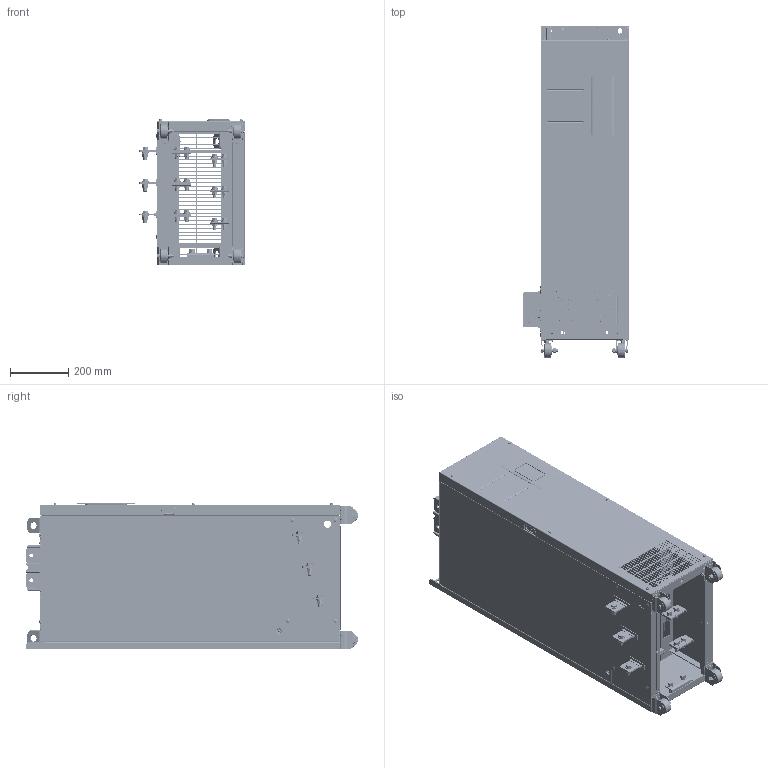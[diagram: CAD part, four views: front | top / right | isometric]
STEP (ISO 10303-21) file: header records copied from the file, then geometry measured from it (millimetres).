
FILE_DESCRIPTION((''),'2;1');
FILE_NAME('000-MVT224ZG-520_ASM','2021-12-14T',('h2718'),(''),'CREO PARAMETRIC BY PTC INC, 2015290','CREO PARAMETRIC BY PTC INC, 2015290','');
FILE_SCHEMA(('AP203_CONFIGURATION_CONTROLLED_3D_DESIGN_OF_MECHANICAL_PARTS_AND_ASSEMBLIES_MIM_LF { 1 0 10303 403 2 1 2 }'));
Products named in the file (56): 20310568-LJ_3; HC-NZ-M12-ZC_1; 20310563-LJ_AF0_2; 20310549-LJ_AF1_5_1; 20310549-LJ_AF1_5_2; 20310555-LJ_AF1_4; 20310556-LJ_AF1_7; 20310552-LJ_AF1_3_1; 20310552-LJ_AF1_3_2; 20110091-ZP_ASM_11_ASM; 20310565-LJ_3; 20310564-LJ_3; 20130143-ZP_ASM_3_ASM; HC-TPR-5-10-SL_1; SIT2013AGH5; 20460155-LJ_3; 20460154-LJ_4; 20460157-LJ_1; 20190039-ZP_ASM_8_ASM; 20350028-LJ_AF1_3; 20350027-LJ_AF1_3; 20350023-ZP_ASM_3_ASM; 20350174-LJ_4; 20310720-LJ_1; 20310720-LJ_ASM_1_ASM; 20350173-LJ_1; HC-S-M4-ZC_1; 20350173-LJ_ASM_1_ASM; 20180084-LJ_1; 21030044_2; 20210022-LJ_1; 20210102-LJ_1; 20210041-LJ_1; 19020408-LJ_1; 20230121-LJ_5; 21010127_1; 21020123_1; QITA-T10_ASM; 520-KZB-20211209; 520-AJZJ-02-20211209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
Assembly tree (172 placements, depth 4):
  000-MVT224ZG-520_ASM
    20190039-ZP_ASM_8_ASM
      20110091-ZP_ASM_11_ASM
        20310568-LJ_3
        HC-NZ-M12-ZC_1  x2
        20310563-LJ_AF0_2
        20310549-LJ_AF1_5_1
        20310549-LJ_AF1_5_2
        20310555-LJ_AF1_4
        20310556-LJ_AF1_7
        20310552-LJ_AF1_3_1
        20310552-LJ_AF1_3_2
      20130143-ZP_ASM_3_ASM  x2
        20310565-LJ_3
        20310564-LJ_3
      HC-TPR-5-10-SL_1
      SIT2013AGH5
      20460155-LJ_3
      20460154-LJ_4
      20460157-LJ_1
    20350023-ZP_ASM_3_ASM
      20350028-LJ_AF1_3
      20350027-LJ_AF1_3
    QITA-T10_ASM
      20350174-LJ_4  x6
      20310720-LJ_ASM_1_ASM  x6
        20310720-LJ_1
        HC-NZ-M12-ZC_1
      20350173-LJ_ASM_1_ASM  x3
        20350173-LJ_1
        HC-S-M4-ZC_1
      20180084-LJ_1  x4
      21030044_2  x2
      20210022-LJ_1  x3
      20210102-LJ_1
      20210041-LJ_1  x2
      19020408-LJ_1
      20230121-LJ_5
      21010127_1  x4
      21020123_1  x4
    001-520-ZUJIAN_ASM
      520-KZB-20211209
      520-AJZJ-02-20211209
      20212503_S
      20441163
    LUODING-T10_ASM
      GB9074_13-88_M8X20_GB_2  x8
      GB9074_8-88_M4X10_GB_2  x12
      GB9074_13-88_M5X12_GBXNHJ_2  x6
      GB97_1-2002_12_GB_A_2  x20
      GB93-87_12_GB_2  x17
      GB6170-2000_M12_GB1_A_8_1  x3
      GB5783-2000_M12X35_GB8_8_1  x17
      GB5783-2000_M8X50_GB8_8_2  x4
      GB97_1-2002_8_GB_A_2  x4
      GB93-87_8_GB_2  x4
      GB6170-2000_M8_GB1_A_8_2  x4
Bounding box: 360.53 x 1135 x 502.28 mm (x, y, z)
Volume: 5202081.1 mm3; surface area: 5741609.2 mm2
Topology: 205 solids, 223 shells, 15098 faces, 40601 edges, 26154 vertices
Faces by surface type: plane 9139, cylinder 3790, cone 1201, bspline 507, torus 324, extrusion 70, sphere 57, revolution 10
Entity records: 495162 total; most frequent: CARTESIAN_POINT 102372, ORIENTED_EDGE 58920, DIRECTION 56641, PRESENTATION_STYLE_ASSIGNMENT 32410, STYLED_ITEM 29911, CURVE_STYLE 29832, EDGE_CURVE 29489, VECTOR 20855
